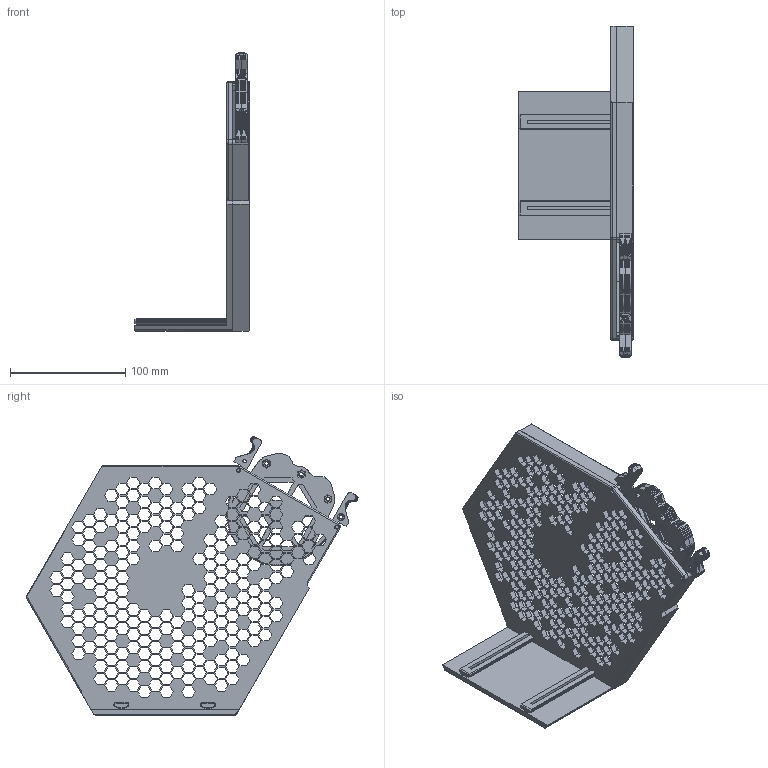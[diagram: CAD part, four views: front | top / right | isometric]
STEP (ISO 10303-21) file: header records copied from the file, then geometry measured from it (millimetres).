
FILE_DESCRIPTION(/* description */ (''),/* implementation_level */ '2;1');
FILE_NAME(/* name */ 'MK4 Roller.step',/* time_stamp */ '2025-12-09T17:06:38Z',/* author */ (''),/* organization */ (''),/* preprocessor_version */ 'ST-DEVELOPER v20.1',/* originating_system */ 'Autodesk Translation Framework v14.21.0.0',/* authorisation */ '');
FILE_SCHEMA (('AUTOMOTIVE_DESIGN { 1 0 10303 214 3 1 1 }'));
Products named in the file (5): Hex Spool Holder with buffer; Spool Holder; Buffer; segment-R4(1); wheel-R4(1)
Assembly tree (4 placements, depth 2):
  Hex Spool Holder with buffer
    Spool Holder
    Buffer
    segment-R4(1)
    wheel-R4(1)
Bounding box: 99.48 x 287.86 x 241.54 mm (x, y, z)
Volume: 317076.8 mm3; surface area: 232987.4 mm2
Topology: 5 solids, 5 shells, 14392 faces, 28785 edges, 14434 vertices
Faces by surface type: plane 14339, cylinder 42, torus 9, bspline 2
Full cylindrical faces by diameter (mm): 2.9 x7, 3.5 x7, 6 x5
Entity records: 347984 total; most frequent: CARTESIAN_POINT 57814, DIRECTION 57662, ORIENTED_EDGE 57570, EDGE_CURVE 28785, LINE 28678, VECTOR 28678, EDGE_LOOP 15415, AXIS2_PLACEMENT_3D 14492
